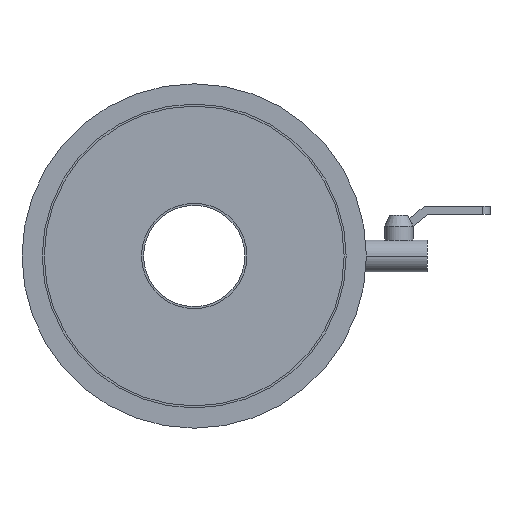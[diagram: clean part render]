
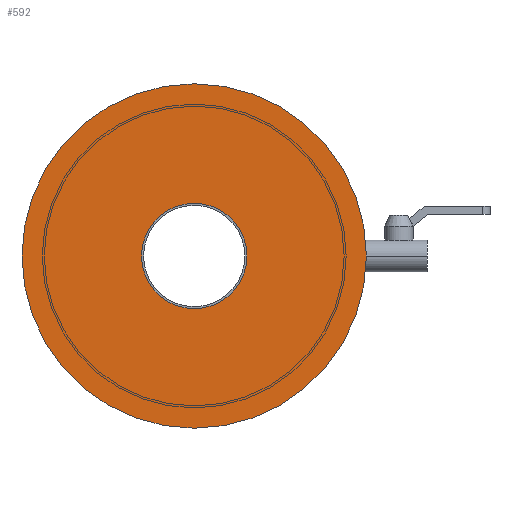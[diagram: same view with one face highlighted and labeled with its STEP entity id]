
A CAD part, left-side view. The second image highlights one B-rep face of the part: STEP entity #592.
In plain terms, the highlighted planar face has unit normal (-1, 0, 0).
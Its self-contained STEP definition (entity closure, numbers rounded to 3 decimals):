
#261=CARTESIAN_POINT('',(-253.,0.,0.));
#262=DIRECTION('',(-1.,0.,0.));
#263=DIRECTION('',(0.,1.,0.));
#264=AXIS2_PLACEMENT_3D('',#261,#262,#263);
#266=CARTESIAN_POINT('',(-253.,0.,0.));
#267=DIRECTION('',(1.,0.,0.));
#268=DIRECTION('',(0.,1.,0.));
#269=AXIS2_PLACEMENT_3D('',#266,#267,#268);
#271=CARTESIAN_POINT('',(-253.,0.,0.));
#272=DIRECTION('',(-1.,0.,0.));
#273=DIRECTION('',(0.,1.,0.));
#274=AXIS2_PLACEMENT_3D('',#271,#272,#273);
#276=CARTESIAN_POINT('',(-253.,0.,0.));
#277=DIRECTION('',(1.,0.,0.));
#278=DIRECTION('',(0.,1.,0.));
#279=AXIS2_PLACEMENT_3D('',#276,#277,#278);
#290=CARTESIAN_POINT('',(-253.,170.,0.));
#292=VERTEX_POINT('',#290);
#302=CARTESIAN_POINT('',(-253.,-170.,0.));
#304=VERTEX_POINT('',#302);
#305=CARTESIAN_POINT('',(-253.,52.,0.));
#307=VERTEX_POINT('',#305);
#317=CARTESIAN_POINT('',(-253.,-52.,0.));
#319=VERTEX_POINT('',#317);
#579=CARTESIAN_POINT('',(-253.,0.,0.));
#580=DIRECTION('',(1.,0.,0.));
#581=DIRECTION('',(0.,-1.,0.));
#582=AXIS2_PLACEMENT_3D('',#579,#580,#581);
#583=PLANE('',#582);
#584=ORIENTED_EDGE('',*,*,#336,.F.);
#585=ORIENTED_EDGE('',*,*,#354,.T.);
#586=EDGE_LOOP('',(#584,#585));
#587=FACE_OUTER_BOUND('',#586,.F.);
#588=ORIENTED_EDGE('',*,*,#572,.F.);
#589=ORIENTED_EDGE('',*,*,#561,.T.);
#590=EDGE_LOOP('',(#588,#589));
#591=FACE_BOUND('',#590,.F.);
#265=CIRCLE('',#264,52.);
#270=CIRCLE('',#269,52.);
#275=CIRCLE('',#274,170.);
#280=CIRCLE('',#279,170.);
#336=EDGE_CURVE('',#292,#304,#275,.T.);
#354=EDGE_CURVE('',#292,#304,#280,.T.);
#561=EDGE_CURVE('',#307,#319,#265,.T.);
#572=EDGE_CURVE('',#307,#319,#270,.T.);
#592=ADVANCED_FACE('',(#587,#591),#583,.F.);
